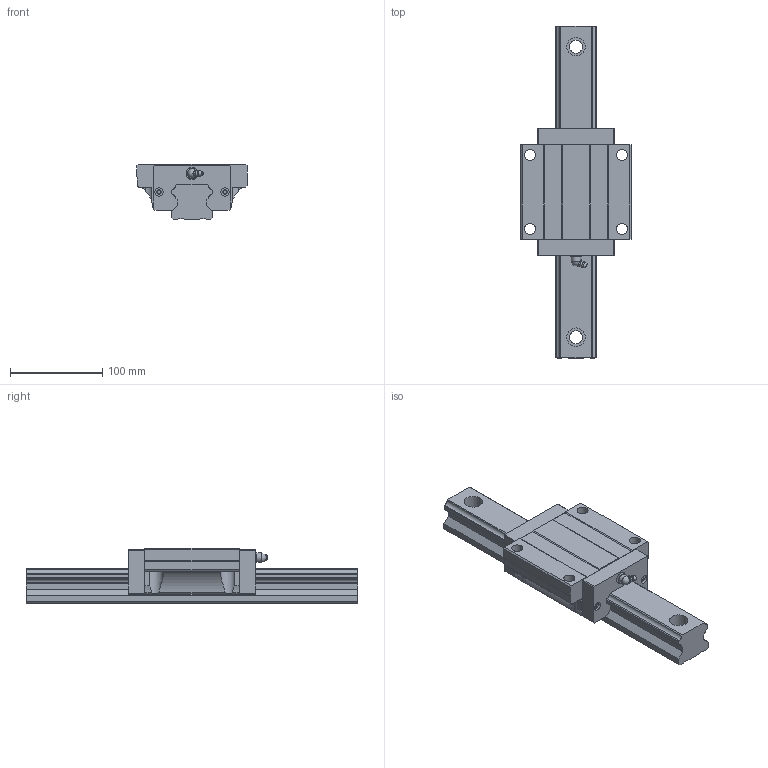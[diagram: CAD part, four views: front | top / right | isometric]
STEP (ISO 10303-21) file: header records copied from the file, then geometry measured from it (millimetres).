
FILE_DESCRIPTION(/* description */ (''),/* implementation_level */ '2;1');
FILE_NAME(/* name */ 'MSA45A',/* time_stamp */ '2003-12-27T16:46:05+08:00',/* author */ (''),/* organization */ (''),/* preprocessor_version */ 'ST-DEVELOPER v9',/* originating_system */ '',/* authorisation */ '');
FILE_SCHEMA (('CONFIG_CONTROL_DESIGN'));
Length unit declared in the file: millimetre
Products named in the file (1): zircC7DFjmc2
Bounding box: 120 x 360 x 60 mm (x, y, z)
Volume: 1013930.7 mm3; surface area: 135223.1 mm2
Topology: 3 solids, 3 shells, 187 faces, 492 edges, 325 vertices
Faces by surface type: plane 131, cylinder 45, torus 7, sphere 2, cone 1, bspline 1
Full cylindrical faces by diameter (mm): 4.5 x4, 9 x4, 10 x1, 12 x4, 13 x2, 14 x4, 20 x4
Entity records: 5853 total; most frequent: CARTESIAN_POINT 1200, ORIENTED_EDGE 924, DIRECTION 910, EDGE_CURVE 462, LINE 326, VECTOR 326, VERTEX_POINT 322, AXIS2_PLACEMENT_3D 292
